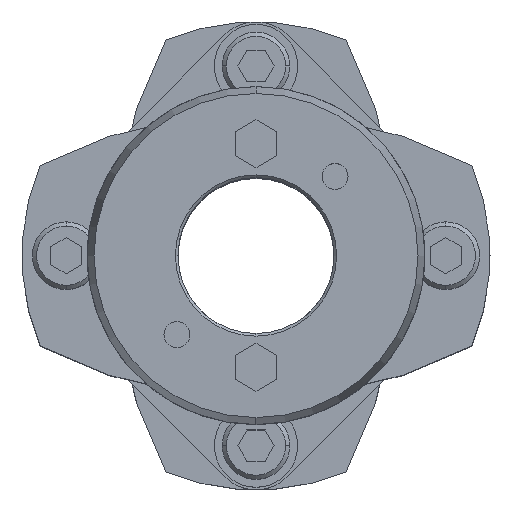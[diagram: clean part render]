
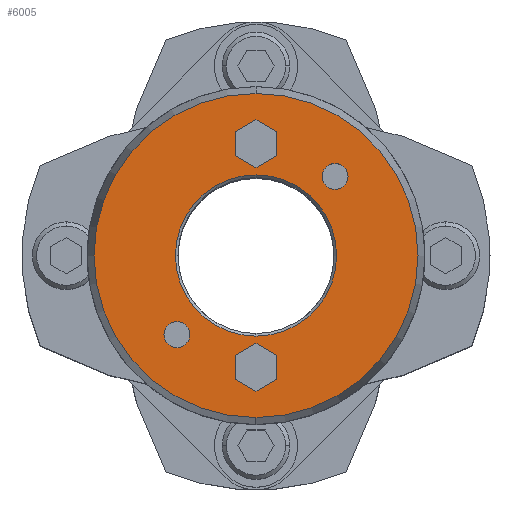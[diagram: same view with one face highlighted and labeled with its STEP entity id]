
A CAD part, top view. The second image highlights one B-rep face of the part: STEP entity #6005.
In plain terms, the highlighted planar face has unit normal (0, 0, 1).
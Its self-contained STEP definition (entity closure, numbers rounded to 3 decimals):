
#1677=CARTESIAN_POINT('',(0.,15.5,52.0));
#1678=VERTEX_POINT('',#1677);
#1694=CARTESIAN_POINT('',(0.,-15.5,52.0));
#1695=VERTEX_POINT('',#1694);
#1702=CARTESIAN_POINT('',(0.,0.,52.0));
#1703=DIRECTION('',(0.0,0.0,1.0));
#1704=DIRECTION('',(0.0,1.0,0.0));
#1705=AXIS2_PLACEMENT_3D('',#1702,#1703,#1704);
#1706=CIRCLE('',#1705,15.5);
#1707=EDGE_CURVE('',#1695,#1678,#1706,.T.);
#1823=CARTESIAN_POINT('',(0.,-31.16,52.0));
#1824=VERTEX_POINT('',#1823);
#1833=CARTESIAN_POINT('',(0.,31.16,52.0));
#1834=VERTEX_POINT('',#1833);
#1835=CARTESIAN_POINT('',(0.,0.,52.0));
#1836=DIRECTION('',(0.0,0.0,-1.0));
#1837=DIRECTION('',(0.0,-1.0,0.0));
#1838=AXIS2_PLACEMENT_3D('',#1835,#1836,#1837);
#1839=CIRCLE('',#1838,31.16);
#1840=EDGE_CURVE('',#1824,#1834,#1839,.T.);
#2157=CARTESIAN_POINT('',(15.203,17.703,52.0));
#2158=VERTEX_POINT('',#2157);
#2174=CARTESIAN_POINT('',(15.203,12.703,52.0));
#2175=VERTEX_POINT('',#2174);
#2182=CARTESIAN_POINT('',(15.203,15.203,52.0));
#2183=DIRECTION('',(0.0,0.0,-1.0));
#2184=DIRECTION('',(0.0,1.0,0.0));
#2185=AXIS2_PLACEMENT_3D('',#2182,#2183,#2184);
#2186=CIRCLE('',#2185,2.5);
#2187=EDGE_CURVE('',#2158,#2175,#2186,.T.);
#2199=CARTESIAN_POINT('',(-15.203,-12.703,52.0));
#2200=VERTEX_POINT('',#2199);
#2216=CARTESIAN_POINT('',(-15.203,-17.703,52.0));
#2217=VERTEX_POINT('',#2216);
#2224=CARTESIAN_POINT('',(-15.203,-15.203,52.0));
#2225=DIRECTION('',(0.0,0.0,-1.0));
#2226=DIRECTION('',(0.0,1.0,0.0));
#2227=AXIS2_PLACEMENT_3D('',#2224,#2225,#2226);
#2228=CIRCLE('',#2227,2.5);
#2229=EDGE_CURVE('',#2200,#2217,#2228,.T.);
#4611=CARTESIAN_POINT('',(0.,-16.881,52.0));
#4612=VERTEX_POINT('',#4611);
#4619=CARTESIAN_POINT('',(-4.,-19.191,52.0));
#4620=VERTEX_POINT('',#4619);
#4621=CARTESIAN_POINT('',(-4.,-19.191,52.0));
#4622=DIRECTION('',(0.866,0.5,0.0));
#4623=VECTOR('',#4622,4.619);
#4624=LINE('',#4621,#4623);
#4625=EDGE_CURVE('',#4620,#4612,#4624,.T.);
#4649=CARTESIAN_POINT('',(4.,-19.191,52.0));
#4650=VERTEX_POINT('',#4649);
#4657=CARTESIAN_POINT('',(0.,-16.881,52.0));
#4658=DIRECTION('',(0.866,-0.5,0.0));
#4659=VECTOR('',#4658,4.619);
#4660=LINE('',#4657,#4659);
#4661=EDGE_CURVE('',#4612,#4650,#4660,.T.);
#4680=CARTESIAN_POINT('',(4.,-23.809,52.0));
#4681=VERTEX_POINT('',#4680);
#4688=CARTESIAN_POINT('',(4.,-19.191,52.0));
#4689=DIRECTION('',(0.0,-1.0,0.0));
#4690=VECTOR('',#4689,4.619);
#4691=LINE('',#4688,#4690);
#4692=EDGE_CURVE('',#4650,#4681,#4691,.T.);
#4711=CARTESIAN_POINT('',(0.,-26.119,52.0));
#4712=VERTEX_POINT('',#4711);
#4719=CARTESIAN_POINT('',(4.,-23.809,52.0));
#4720=DIRECTION('',(-0.866,-0.5,0.0));
#4721=VECTOR('',#4720,4.619);
#4722=LINE('',#4719,#4721);
#4723=EDGE_CURVE('',#4681,#4712,#4722,.T.);
#4742=CARTESIAN_POINT('',(-4.,-23.809,52.0));
#4743=VERTEX_POINT('',#4742);
#4750=CARTESIAN_POINT('',(0.,-26.119,52.0));
#4751=DIRECTION('',(-0.866,0.5,0.0));
#4752=VECTOR('',#4751,4.619);
#4753=LINE('',#4750,#4752);
#4754=EDGE_CURVE('',#4712,#4743,#4753,.T.);
#4772=CARTESIAN_POINT('',(-4.,-23.809,52.0));
#4773=DIRECTION('',(0.0,1.0,0.0));
#4774=VECTOR('',#4773,4.619);
#4775=LINE('',#4772,#4774);
#4776=EDGE_CURVE('',#4743,#4620,#4775,.T.);
#4811=CARTESIAN_POINT('',(0.,26.119,52.0));
#4812=VERTEX_POINT('',#4811);
#4819=CARTESIAN_POINT('',(-4.,23.809,52.0));
#4820=VERTEX_POINT('',#4819);
#4821=CARTESIAN_POINT('',(-4.,23.809,52.0));
#4822=DIRECTION('',(0.866,0.5,0.0));
#4823=VECTOR('',#4822,4.619);
#4824=LINE('',#4821,#4823);
#4825=EDGE_CURVE('',#4820,#4812,#4824,.T.);
#4849=CARTESIAN_POINT('',(4.,23.809,52.0));
#4850=VERTEX_POINT('',#4849);
#4857=CARTESIAN_POINT('',(0.,26.119,52.0));
#4858=DIRECTION('',(0.866,-0.5,0.0));
#4859=VECTOR('',#4858,4.619);
#4860=LINE('',#4857,#4859);
#4861=EDGE_CURVE('',#4812,#4850,#4860,.T.);
#4880=CARTESIAN_POINT('',(4.,19.191,52.0));
#4881=VERTEX_POINT('',#4880);
#4888=CARTESIAN_POINT('',(4.,23.809,52.0));
#4889=DIRECTION('',(0.0,-1.0,0.0));
#4890=VECTOR('',#4889,4.619);
#4891=LINE('',#4888,#4890);
#4892=EDGE_CURVE('',#4850,#4881,#4891,.T.);
#4911=CARTESIAN_POINT('',(0.,16.881,52.0));
#4912=VERTEX_POINT('',#4911);
#4919=CARTESIAN_POINT('',(4.,19.191,52.0));
#4920=DIRECTION('',(-0.866,-0.5,0.0));
#4921=VECTOR('',#4920,4.619);
#4922=LINE('',#4919,#4921);
#4923=EDGE_CURVE('',#4881,#4912,#4922,.T.);
#4942=CARTESIAN_POINT('',(-4.,19.191,52.0));
#4943=VERTEX_POINT('',#4942);
#4950=CARTESIAN_POINT('',(0.,16.881,52.0));
#4951=DIRECTION('',(-0.866,0.5,0.0));
#4952=VECTOR('',#4951,4.619);
#4953=LINE('',#4950,#4952);
#4954=EDGE_CURVE('',#4912,#4943,#4953,.T.);
#4972=CARTESIAN_POINT('',(-4.,19.191,52.0));
#4973=DIRECTION('',(0.0,1.0,0.0));
#4974=VECTOR('',#4973,4.619);
#4975=LINE('',#4972,#4974);
#4976=EDGE_CURVE('',#4943,#4820,#4975,.T.);
#5002=CARTESIAN_POINT('',(-15.203,-15.203,52.0));
#5003=DIRECTION('',(0.0,0.0,-1.0));
#5004=DIRECTION('',(0.0,1.0,0.0));
#5005=AXIS2_PLACEMENT_3D('',#5002,#5003,#5004);
#5006=CIRCLE('',#5005,2.5);
#5007=EDGE_CURVE('',#2217,#2200,#5006,.T.);
#5036=CARTESIAN_POINT('',(15.203,15.203,52.0));
#5037=DIRECTION('',(0.0,0.0,-1.0));
#5038=DIRECTION('',(0.0,1.0,0.0));
#5039=AXIS2_PLACEMENT_3D('',#5036,#5037,#5038);
#5040=CIRCLE('',#5039,2.5);
#5041=EDGE_CURVE('',#2175,#2158,#5040,.T.);
#5952=CARTESIAN_POINT('',(0.,0.,52.0));
#5953=DIRECTION('',(0.0,0.0,-1.0));
#5954=DIRECTION('',(0.0,-1.0,0.0));
#5955=AXIS2_PLACEMENT_3D('',#5952,#5953,#5954);
#5956=CIRCLE('',#5955,31.16);
#5957=EDGE_CURVE('',#1834,#1824,#5956,.T.);
#5962=CARTESIAN_POINT('',(0.,2.682,52.0));
#5963=DIRECTION('',(0.0,0.0,1.0));
#5964=DIRECTION('',(0.0,1.0,0.0));
#5965=AXIS2_PLACEMENT_3D('',#5962,#5963,#5964);
#5966=PLANE('',#5965);
#5967=ORIENTED_EDGE('',*,*,#5957,.F.);
#5968=ORIENTED_EDGE('',*,*,#1840,.F.);
#5969=EDGE_LOOP('',(#5967,#5968));
#5970=FACE_OUTER_BOUND('',#5969,.T.);
#5971=ORIENTED_EDGE('',*,*,#4625,.T.);
#5972=ORIENTED_EDGE('',*,*,#4661,.T.);
#5973=ORIENTED_EDGE('',*,*,#4692,.T.);
#5974=ORIENTED_EDGE('',*,*,#4723,.T.);
#5975=ORIENTED_EDGE('',*,*,#4754,.T.);
#5976=ORIENTED_EDGE('',*,*,#4776,.T.);
#5977=EDGE_LOOP('',(#5971,#5972,#5973,#5974,#5975,#5976));
#5978=FACE_BOUND('',#5977,.T.);
#5979=ORIENTED_EDGE('',*,*,#4825,.T.);
#5980=ORIENTED_EDGE('',*,*,#4861,.T.);
#5981=ORIENTED_EDGE('',*,*,#4892,.T.);
#5982=ORIENTED_EDGE('',*,*,#4923,.T.);
#5983=ORIENTED_EDGE('',*,*,#4954,.T.);
#5984=ORIENTED_EDGE('',*,*,#4976,.T.);
#5985=EDGE_LOOP('',(#5979,#5980,#5981,#5982,#5983,#5984));
#5986=FACE_BOUND('',#5985,.T.);
#5987=ORIENTED_EDGE('',*,*,#2229,.T.);
#5988=ORIENTED_EDGE('',*,*,#5007,.T.);
#5989=EDGE_LOOP('',(#5987,#5988));
#5990=FACE_BOUND('',#5989,.T.);
#5991=ORIENTED_EDGE('',*,*,#2187,.T.);
#5992=ORIENTED_EDGE('',*,*,#5041,.T.);
#5993=EDGE_LOOP('',(#5991,#5992));
#5994=FACE_BOUND('',#5993,.T.);
#5995=ORIENTED_EDGE('',*,*,#1707,.F.);
#5996=CARTESIAN_POINT('',(0.,0.,52.0));
#5997=DIRECTION('',(0.0,0.0,1.0));
#5998=DIRECTION('',(0.0,1.0,0.0));
#5999=AXIS2_PLACEMENT_3D('',#5996,#5997,#5998);
#6000=CIRCLE('',#5999,15.5);
#6001=EDGE_CURVE('',#1678,#1695,#6000,.T.);
#6002=ORIENTED_EDGE('',*,*,#6001,.F.);
#6003=EDGE_LOOP('',(#5995,#6002));
#6004=FACE_BOUND('',#6003,.T.);
#6005=ADVANCED_FACE('',(#5970,#5978,#5986,#5990,#5994,#6004),#5966,.T.);
